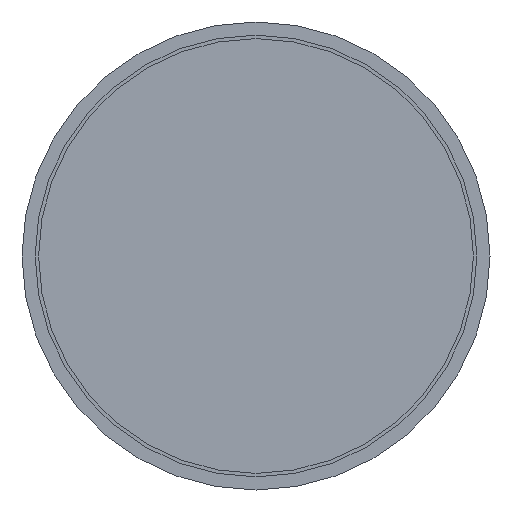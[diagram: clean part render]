
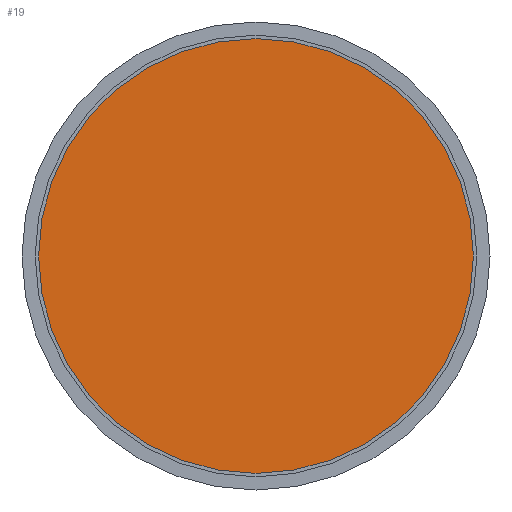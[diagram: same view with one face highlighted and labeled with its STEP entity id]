
A CAD part, front view. The second image highlights one B-rep face of the part: STEP entity #19.
In plain terms, the highlighted planar face has unit normal (0, -1, 0).
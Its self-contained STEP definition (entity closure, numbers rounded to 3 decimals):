
#19 = ADVANCED_FACE ( 'NONE', ( #614 ), #464, .F. ) ;
#29 = AXIS2_PLACEMENT_3D ( 'NONE', #513, #236, #509 ) ;
#51 = CARTESIAN_POINT ( 'NONE',  ( 0., 0., 320.5 ) ) ;
#62 = CARTESIAN_POINT ( 'NONE',  ( 0., 0., -320.5 ) ) ;
#87 = VERTEX_POINT ( 'NONE', #51 ) ;
#135 = EDGE_LOOP ( 'NONE', ( #521, #283 ) ) ;
#151 = DIRECTION ( 'NONE',  ( 0., -1., 0. ) ) ;
#156 = CARTESIAN_POINT ( 'NONE',  ( 0., 0., 0. ) ) ;
#191 = VERTEX_POINT ( 'NONE', #62 ) ;
#236 = DIRECTION ( 'NONE',  ( 0., 1., 0. ) ) ;
#264 = CIRCLE ( 'NONE', #376, 320.5 ) ;
#283 = ORIENTED_EDGE ( 'NONE', *, *, #350, .T. ) ;
#284 = DIRECTION ( 'NONE',  ( 0., 0., -1. ) ) ;
#350 = EDGE_CURVE ( 'NONE', #87, #191, #264, .T. ) ;
#373 = EDGE_CURVE ( 'NONE', #191, #87, #438, .T. ) ;
#376 = AXIS2_PLACEMENT_3D ( 'NONE', #156, #470, #284 ) ;
#417 = CARTESIAN_POINT ( 'NONE',  ( 0., 0., 0. ) ) ;
#438 = CIRCLE ( 'NONE', #603, 320.5 ) ;
#464 = PLANE ( 'NONE',  #29 ) ;
#470 = DIRECTION ( 'NONE',  ( 0., -1., 0. ) ) ;
#509 = DIRECTION ( 'NONE',  ( 0., 0., 1. ) ) ;
#513 = CARTESIAN_POINT ( 'NONE',  ( 0., 0., 320.5 ) ) ;
#517 = DIRECTION ( 'NONE',  ( 0., 0., -1. ) ) ;
#521 = ORIENTED_EDGE ( 'NONE', *, *, #373, .T. ) ;
#603 = AXIS2_PLACEMENT_3D ( 'NONE', #417, #151, #517 ) ;
#614 = FACE_OUTER_BOUND ( 'NONE', #135, .T. ) ;
